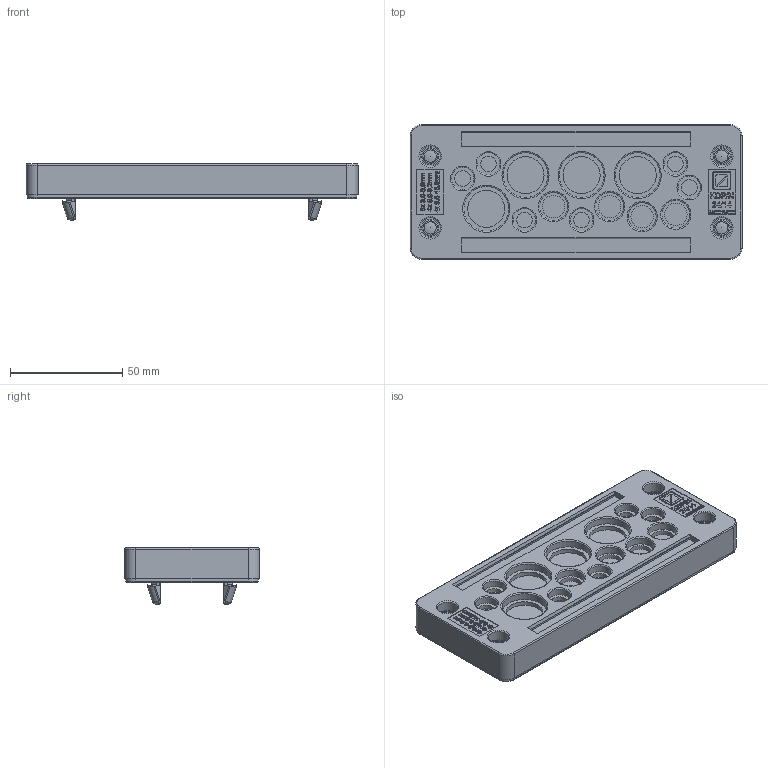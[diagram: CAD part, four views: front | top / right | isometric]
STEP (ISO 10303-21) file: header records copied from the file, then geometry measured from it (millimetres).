
FILE_DESCRIPTION((''),'2;1');
FILE_NAME('N:\87_KDH\CADENAS\KDPN\KDPN_2414.stp','2009-07-20T08:12:18',('daub'),(''),'Autodesk Inventor 2009','Autodesk Inventor 2009','');
FILE_SCHEMA(('AUTOMOTIVE_DESIGN { 1 0 10303 214 1 1 1 1 }'));
Length unit declared in the file: millimetre
Products named in the file (1): KDPN_2414
Bounding box: 148 x 60 x 25 mm (x, y, z)
Volume: 92751.8 mm3; surface area: 33957.4 mm2
Topology: 1 solids, 1 shells, 1109 faces, 2862 edges, 1888 vertices
Faces by surface type: plane 577, bspline 370, cylinder 124, torus 34, cone 4
Full cylindrical faces by diameter (mm): 5.5 x8, 6.5 x4, 7 x6, 7.5 x4, 9 x4, 10 x16, 12.5 x8, 16.5 x4, 20 x8
Entity records: 35052 total; most frequent: CARTESIAN_POINT 10684, ORIENTED_EDGE 5480, DIRECTION 3842, EDGE_CURVE 2740, VERTEX_POINT 1858, VECTOR 1766, LINE 1766, EDGE_LOOP 1334
